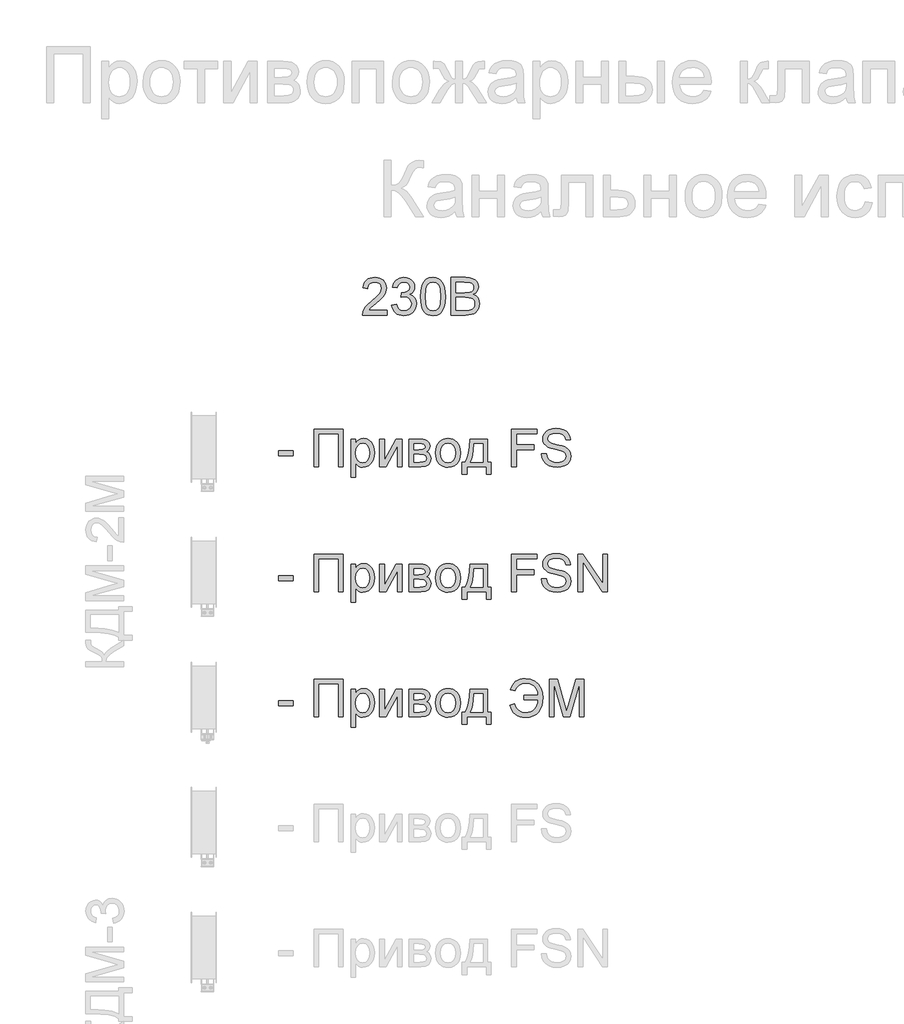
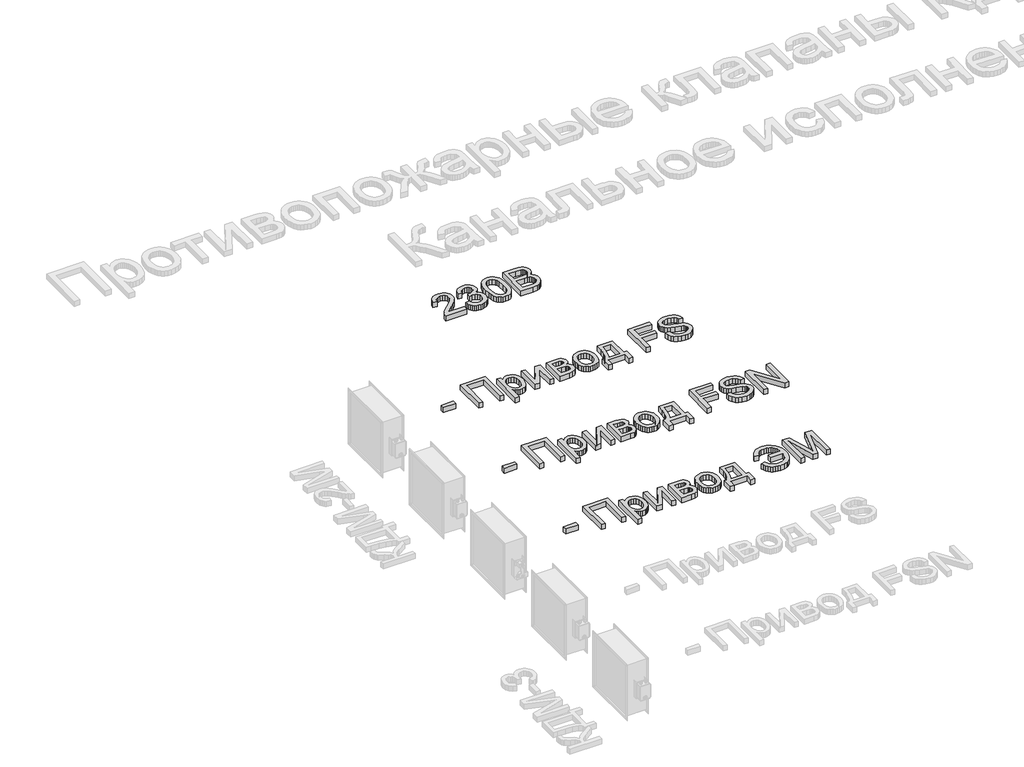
# One storey, part 11 of 23: 4 proxies.
"""IFC4 building model written with IfcOpenShell, lengths in millimetres."""

from ifc_helpers import new_model, si_unit, origin, origin_with_axes, place, context, project, spatial, polyline, outline, extrude, element, save

model = new_model("IFC4")

# Units and contexts
model_context = context("Model", 3, world=origin())
ifc_project = project(units=[si_unit("LENGTHUNIT", "METRE", prefix="MILLI")], contexts=[model_context])

# Site, building, storey
site = spatial("IfcSite", under=ifc_project)
building = spatial("IfcBuilding", under=site)
storey = spatial("IfcBuildingStorey", under=building, Name="Этаж 01", Elevation=0.0)

# Proxies
placement = place(None, origin())
element("IfcBuildingElementProxy", 1, Name="300 мм Arial", ObjectType="300 мм Arial", at=placement, inside=storey, context=model_context, shape_type="SweptSolid", body=[
    extrude(outline(polyline([(2804.7738082, -4434.3206311), (2804.7738082, -4396.6495148), (2922.4960467, -4396.6495148), (2922.4960467, -4434.3206311), (2804.7738082, -4434.3206311)])), origin_with_axes(), (0.0, 0.0, 1.0), 50.0),
    extrude(outline(polyline([(3087.3071805, -4222.4206019), (3322.7516574, -4222.4206019), (3322.7516574, -4523.7895324), (3285.0805411, -4523.7895324), (3285.0805411, -4260.0917182), (3124.9782968, -4260.0917182), (3124.9782968, -4523.7895324), (3087.3071805, -4523.7895324), (3087.3071805, -4222.4206019)])), origin_with_axes(), (0.0, 0.0, 1.0), 50.0),
    extrude(outline(polyline([(3383.9672214, -4608.5495441), (3383.9672214, -4302.4717241), (3421.6383378, -4302.4717241), (3421.6383378, -4339.4070764), (3433.9255964, -4321.1877206), (3447.684383, -4308.173895), (3463.724038, -4300.3655996), (3482.8539017, -4297.7628345), (3508.3297299, -4301.4048663), (3530.6049847, -4312.3309615), (3548.7415671, -4329.8789327), (3561.8013779, -4353.3865922), (3569.6924467, -4381.1432887), (3572.322803, -4411.438371), (3569.3521559, -4443.6556368), (3560.4402145, -4472.469994), (3545.8720875, -4496.4191119), (3525.9328834, -4514.0406595), (3502.7103324, -4524.8839813), (3478.292165, -4528.4984219), (3460.9741201, -4526.0795978), (3445.5138792, -4518.8231254), (3432.2793245, -4507.869439), (3421.6383378, -4494.3589728), (3421.6383378, -4608.5495441), (3383.9672214, -4608.5495441)]), holes=[polyline([(3421.6383378, -4414.8964618), (3425.7126308, -4448.668029), (3437.9355101, -4472.286053), (3455.970925, -4486.1919925), (3477.4828246, -4490.8273056), (3499.3442122, -4486.0264456), (3517.8394795, -4471.6238655), (3530.4486349, -4447.1413187), (3534.6516867, -4412.1005586), (3530.5498024, -4378.5129325), (3518.2441497, -4354.5638146), (3500.236326, -4340.2164168), (3479.027929, -4335.4339508), (3457.7367585, -4340.5199194), (3439.0391561, -4355.7778252), (3425.9885423, -4380.7294215), (3421.6383378, -4414.8964618)])]), origin_with_axes(), (0.0, 0.0, 1.0), 50.0),
    extrude(outline(polyline([(3614.7028088, -4302.4717241), (3652.3739251, -4302.4717241), (3652.3739251, -4471.2559835), (3744.9330351, -4302.4717241), (3793.6406113, -4302.4717241), (3793.6406113, -4523.7895324), (3755.969495, -4523.7895324), (3755.969495, -4356.0353426), (3663.9989962, -4523.7895324), (3614.7028088, -4523.7895324), (3614.7028088, -4302.4717241)])), origin_with_axes(), (0.0, 0.0, 1.0), 50.0),
    extrude(outline(polyline([(3850.1472857, -4302.4717241), (3933.1414638, -4302.4717241), (3959.8221055, -4303.7317199), (3978.6484666, -4307.5117074), (3992.4992238, -4314.6486181), (4004.2530535, -4325.9793836), (4012.2820781, -4340.7406486), (4014.9584196, -4358.1690581), (4013.3397388, -4372.2129533), (4008.4836965, -4384.325468), (4000.3718985, -4394.5617845), (3988.9859507, -4402.9770852), (4002.9286783, -4410.8037746), (4014.296232, -4423.3945359), (4021.856207, -4439.7560876), (4024.3761986, -4458.8951484), (4017.993446, -4487.6083381), (4002.8183137, -4507.8234538), (3978.7956194, -4519.7980127), (3945.8701809, -4523.7895324), (3850.1472857, -4523.7895324), (3850.1472857, -4302.4717241)]), holes=[polyline([(3887.818402, -4486.1184161), (3934.0243806, -4486.1184161), (3959.2059032, -4484.4169618), (3975.0064349, -4479.3125992), (3983.4861149, -4470.0327758), (3986.7050823, -4455.8049397), (3985.0955986, -4446.3779635), (3980.2671474, -4437.6683573), (3972.8543252, -4430.8533433), (3963.4917284, -4427.110144), (3930.3455607, -4424.9028521), (3887.818402, -4424.9028521), (3887.818402, -4486.1184161)]), polyline([(3887.818402, -4387.2317358), (3925.04806, -4387.2317358), (3955.7662065, -4385.3187494), (3970.7022156, -4377.6668039), (3975.6410313, -4371.3392336), (3977.2873033, -4363.8344409), (3974.3994296, -4352.5956459), (3965.7358086, -4345.3667647), (3950.0824297, -4341.4488215), (3926.2252823, -4340.1428404), (3887.818402, -4340.1428404), (3887.818402, -4387.2317358)])]), origin_with_axes(), (0.0, 0.0, 1.0), 50.0),
    extrude(outline(polyline([(4062.047315, -4413.1306282), (4064.0844615, -4384.4680223), (4070.1959011, -4359.7693448), (4080.3816339, -4339.0345959), (4094.6416597, -4322.2637754), (4108.9982546, -4311.5446138), (4124.8447715, -4303.8880698), (4142.1812106, -4299.2941433), (4161.0075717, -4297.7628345), (4181.7906051, -4299.6275364), (4200.5824773, -4305.221642), (4217.3831882, -4314.5451513), (4232.1927377, -4327.5980643), (4244.2799605, -4343.9389227), (4252.9136911, -4363.126268), (4258.0939294, -4385.1601003), (4259.8206756, -4410.0404195), (4256.767255, -4448.0978119), (4247.6069933, -4477.068519), (4232.606605, -4498.7643596), (4212.0328044, -4514.9971527), (4187.5962429, -4525.1231046), (4161.0075717, -4528.4984219), (4139.9210355, -4526.6406178), (4120.9544194, -4521.0672056), (4104.1077233, -4511.7781852), (4089.3809472, -4498.7735567), (4077.4224831, -4482.2740492), (4068.880723, -4462.500392), (4063.755667, -4439.452585), (4062.047315, -4413.1306282)]), holes=[polyline([(4099.7184313, -4413.0570518), (4104.0778329, -4447.1505157), (4117.1560378, -4471.4399245), (4136.8377246, -4485.9804603), (4161.0075717, -4490.8273056), (4185.0670541, -4485.9528692), (4204.7119527, -4471.3295599), (4217.7901576, -4446.7182544), (4222.1495593, -4411.8798294), (4217.7625665, -4378.7796469), (4204.6015881, -4354.821332), (4184.9290984, -4340.2807961), (4161.0075717, -4335.4339508), (4136.8377246, -4340.262402), (4117.1560378, -4354.7477556), (4104.0778329, -4378.981982), (4099.7184313, -4413.0570518)])]), origin_with_axes(), (0.0, 0.0, 1.0), 50.0),
    extrude(outline(polyline([(4335.1629082, -4302.4717241), (4476.4295943, -4302.4717241), (4476.4295943, -4486.1184161), (4504.6829316, -4486.1184161), (4504.6829316, -4585.0050964), (4467.0118152, -4585.0050964), (4467.0118152, -4523.7895324), (4311.6184605, -4523.7895324), (4311.6184605, -4585.0050964), (4273.9473442, -4585.0050964), (4273.9473442, -4486.1184161), (4297.4917919, -4486.1184161), (4314.6075017, -4455.1887373), (4326.5912577, -4414.2710624), (4333.4430598, -4363.3653913), (4335.1629082, -4302.4717241)]), holes=[polyline([(4368.1251349, -4340.1428404), (4365.0349262, -4386.2660455), (4359.2959671, -4425.9697099), (4350.9082576, -4459.2538334), (4339.8717977, -4486.1184161), (4438.758478, -4486.1184161), (4438.758478, -4340.1428404), (4368.1251349, -4340.1428404)])]), origin_with_axes(), (0.0, 0.0, 1.0), 50.0),
    extrude(outline(polyline([(4669.4940654, -4523.7895324), (4669.4940654, -4222.4206019), (4871.9763155, -4222.4206019), (4871.9763155, -4260.0917182), (4707.1651817, -4260.0917182), (4707.1651817, -4349.5606195), (4848.4318678, -4349.5606195), (4848.4318678, -4387.2317358), (4707.1651817, -4387.2317358), (4707.1651817, -4523.7895324), (4669.4940654, -4523.7895324)])), origin_with_axes(), (0.0, 0.0, 1.0), 50.0),
    extrude(outline(polyline([(4909.6474318, -4420.1939625), (4947.3185481, -4420.1939625), (4951.6411616, -4441.0988569), (4959.458654, -4457.901867), (4971.6539421, -4471.2375894), (4989.1099428, -4481.7406203), (5010.4470985, -4488.5556343), (5034.2858518, -4490.8273056), (5055.2735196, -4489.1074573), (5073.6492253, -4483.9479123), (5088.539249, -4475.780932), (5099.0698712, -4465.0387777), (5105.3330621, -4452.7055339), (5107.4207924, -4439.7652847), (5105.857294, -4427.1561293), (5101.1667985, -4416.2576252), (5091.6386549, -4406.9594078), (5075.5622117, -4399.1511124), (5020.7110062, -4384.7669264), (4984.7045559, -4375.2479798), (4961.665946, -4366.1888856), (4942.9131613, -4353.5153509), (4929.6234242, -4338.1562776), (4921.7047642, -4320.4427595), (4919.0652109, -4300.7058905), (4922.3301636, -4278.6421678), (4932.1250217, -4258.0683673), (4948.1922679, -4240.6307607), (4970.2743846, -4227.97562), (4996.7802824, -4220.2776893), (5026.1188715, -4217.7117124), (5057.9038759, -4220.3972509), (5085.7157547, -4228.4538666), (5108.5612266, -4241.7160126), (5125.4470102, -4260.0181418), (5136.1339822, -4282.2198202), (5140.3830192, -4307.1806136), (5102.7119029, -4307.1806136), (5095.7957214, -4284.7030237), (5081.3747472, -4268.4794277), (5058.841975, -4258.6569784), (5027.5903995, -4255.3828287), (4995.60306, -4258.6201902), (4973.658899, -4268.3322749), (4960.9669702, -4282.6244904), (4956.7363272, -4299.6022445), (4959.7345655, -4314.078401), (4968.7292803, -4325.7218662), (4989.9928596, -4336.1329266), (5030.2391499, -4346.7647163), (5071.7730271, -4356.8630771), (5096.8993674, -4365.6738508), (5118.3744789, -4379.340667), (5133.3564731, -4396.2080564), (5142.1580498, -4416.0920783), (5145.0919088, -4438.8087915), (5141.7165914, -4462.0313424), (5131.5906395, -4483.8743359), (5115.1279202, -4502.6731058), (5092.7423008, -4516.7629863), (5065.8225358, -4525.564563), (5035.7573798, -4528.4984219), (4998.8496186, -4525.3346367), (4968.4717629, -4515.8432813), (4944.2743246, -4499.9875673), (4925.907816, -4477.7307066), (4914.1171981, -4450.6178035), (4909.6474318, -4420.1939625)])), origin_with_axes(), (0.0, 0.0, 1.0), 50.0),
])
element("IfcBuildingElementProxy", 2, Name="300 мм Arial", ObjectType="300 мм Arial", at=placement, inside=storey, context=model_context, shape_type="SweptSolid", body=[
    extrude(outline(polyline([(2804.7738082, -5434.3206311), (2804.7738082, -5396.6495148), (2922.4960467, -5396.6495148), (2922.4960467, -5434.3206311), (2804.7738082, -5434.3206311)])), origin_with_axes(), (0.0, 0.0, 1.0), 50.0),
    extrude(outline(polyline([(3087.3071805, -5222.4206019), (3322.7516574, -5222.4206019), (3322.7516574, -5523.7895324), (3285.0805411, -5523.7895324), (3285.0805411, -5260.0917182), (3124.9782968, -5260.0917182), (3124.9782968, -5523.7895324), (3087.3071805, -5523.7895324), (3087.3071805, -5222.4206019)])), origin_with_axes(), (0.0, 0.0, 1.0), 50.0),
    extrude(outline(polyline([(3383.9672214, -5608.5495441), (3383.9672214, -5302.4717241), (3421.6383378, -5302.4717241), (3421.6383378, -5339.4070764), (3433.9255964, -5321.1877206), (3447.684383, -5308.173895), (3463.724038, -5300.3655996), (3482.8539017, -5297.7628345), (3508.3297299, -5301.4048663), (3530.6049847, -5312.3309615), (3548.7415671, -5329.8789327), (3561.8013779, -5353.3865922), (3569.6924467, -5381.1432887), (3572.322803, -5411.438371), (3569.3521559, -5443.6556368), (3560.4402145, -5472.469994), (3545.8720875, -5496.4191119), (3525.9328834, -5514.0406595), (3502.7103324, -5524.8839813), (3478.292165, -5528.4984219), (3460.9741201, -5526.0795978), (3445.5138792, -5518.8231254), (3432.2793245, -5507.869439), (3421.6383378, -5494.3589728), (3421.6383378, -5608.5495441), (3383.9672214, -5608.5495441)]), holes=[polyline([(3421.6383378, -5414.8964618), (3425.7126308, -5448.668029), (3437.9355101, -5472.286053), (3455.970925, -5486.1919925), (3477.4828246, -5490.8273056), (3499.3442122, -5486.0264456), (3517.8394795, -5471.6238655), (3530.4486349, -5447.1413187), (3534.6516867, -5412.1005586), (3530.5498024, -5378.5129325), (3518.2441497, -5354.5638146), (3500.236326, -5340.2164168), (3479.027929, -5335.4339508), (3457.7367585, -5340.5199194), (3439.0391561, -5355.7778252), (3425.9885423, -5380.7294215), (3421.6383378, -5414.8964618)])]), origin_with_axes(), (0.0, 0.0, 1.0), 50.0),
    extrude(outline(polyline([(3614.7028088, -5302.4717241), (3652.3739251, -5302.4717241), (3652.3739251, -5471.2559835), (3744.9330351, -5302.4717241), (3793.6406113, -5302.4717241), (3793.6406113, -5523.7895324), (3755.969495, -5523.7895324), (3755.969495, -5356.0353426), (3663.9989962, -5523.7895324), (3614.7028088, -5523.7895324), (3614.7028088, -5302.4717241)])), origin_with_axes(), (0.0, 0.0, 1.0), 50.0),
    extrude(outline(polyline([(3850.1472857, -5302.4717241), (3933.1414638, -5302.4717241), (3959.8221055, -5303.7317199), (3978.6484666, -5307.5117074), (3992.4992238, -5314.6486181), (4004.2530535, -5325.9793836), (4012.2820781, -5340.7406486), (4014.9584196, -5358.1690581), (4013.3397388, -5372.2129533), (4008.4836965, -5384.325468), (4000.3718985, -5394.5617845), (3988.9859507, -5402.9770852), (4002.9286783, -5410.8037746), (4014.296232, -5423.3945359), (4021.856207, -5439.7560876), (4024.3761986, -5458.8951484), (4017.993446, -5487.6083381), (4002.8183137, -5507.8234538), (3978.7956194, -5519.7980127), (3945.8701809, -5523.7895324), (3850.1472857, -5523.7895324), (3850.1472857, -5302.4717241)]), holes=[polyline([(3887.818402, -5486.1184161), (3934.0243806, -5486.1184161), (3959.2059032, -5484.4169618), (3975.0064349, -5479.3125992), (3983.4861149, -5470.0327758), (3986.7050823, -5455.8049397), (3985.0955986, -5446.3779635), (3980.2671474, -5437.6683573), (3972.8543252, -5430.8533433), (3963.4917284, -5427.110144), (3930.3455607, -5424.9028521), (3887.818402, -5424.9028521), (3887.818402, -5486.1184161)]), polyline([(3887.818402, -5387.2317358), (3925.04806, -5387.2317358), (3955.7662065, -5385.3187494), (3970.7022156, -5377.6668039), (3975.6410313, -5371.3392336), (3977.2873033, -5363.8344409), (3974.3994296, -5352.5956459), (3965.7358086, -5345.3667647), (3950.0824297, -5341.4488215), (3926.2252823, -5340.1428404), (3887.818402, -5340.1428404), (3887.818402, -5387.2317358)])]), origin_with_axes(), (0.0, 0.0, 1.0), 50.0),
    extrude(outline(polyline([(4062.047315, -5413.1306282), (4064.0844615, -5384.4680223), (4070.1959011, -5359.7693448), (4080.3816339, -5339.0345959), (4094.6416597, -5322.2637754), (4108.9982546, -5311.5446138), (4124.8447715, -5303.8880698), (4142.1812106, -5299.2941433), (4161.0075717, -5297.7628345), (4181.7906051, -5299.6275364), (4200.5824773, -5305.221642), (4217.3831882, -5314.5451513), (4232.1927377, -5327.5980643), (4244.2799605, -5343.9389227), (4252.9136911, -5363.126268), (4258.0939294, -5385.1601003), (4259.8206756, -5410.0404195), (4256.767255, -5448.0978119), (4247.6069933, -5477.068519), (4232.606605, -5498.7643596), (4212.0328044, -5514.9971527), (4187.5962429, -5525.1231046), (4161.0075717, -5528.4984219), (4139.9210355, -5526.6406178), (4120.9544194, -5521.0672056), (4104.1077233, -5511.7781852), (4089.3809472, -5498.7735567), (4077.4224831, -5482.2740492), (4068.880723, -5462.500392), (4063.755667, -5439.452585), (4062.047315, -5413.1306282)]), holes=[polyline([(4099.7184313, -5413.0570518), (4104.0778329, -5447.1505157), (4117.1560378, -5471.4399245), (4136.8377246, -5485.9804603), (4161.0075717, -5490.8273056), (4185.0670541, -5485.9528692), (4204.7119527, -5471.3295599), (4217.7901576, -5446.7182544), (4222.1495593, -5411.8798294), (4217.7625665, -5378.7796469), (4204.6015881, -5354.821332), (4184.9290984, -5340.2807961), (4161.0075717, -5335.4339508), (4136.8377246, -5340.262402), (4117.1560378, -5354.7477556), (4104.0778329, -5378.981982), (4099.7184313, -5413.0570518)])]), origin_with_axes(), (0.0, 0.0, 1.0), 50.0),
    extrude(outline(polyline([(4335.1629082, -5302.4717241), (4476.4295943, -5302.4717241), (4476.4295943, -5486.1184161), (4504.6829316, -5486.1184161), (4504.6829316, -5585.0050964), (4467.0118152, -5585.0050964), (4467.0118152, -5523.7895324), (4311.6184605, -5523.7895324), (4311.6184605, -5585.0050964), (4273.9473442, -5585.0050964), (4273.9473442, -5486.1184161), (4297.4917919, -5486.1184161), (4314.6075017, -5455.1887373), (4326.5912577, -5414.2710624), (4333.4430598, -5363.3653913), (4335.1629082, -5302.4717241)]), holes=[polyline([(4368.1251349, -5340.1428404), (4365.0349262, -5386.2660455), (4359.2959671, -5425.9697099), (4350.9082576, -5459.2538334), (4339.8717977, -5486.1184161), (4438.758478, -5486.1184161), (4438.758478, -5340.1428404), (4368.1251349, -5340.1428404)])]), origin_with_axes(), (0.0, 0.0, 1.0), 50.0),
    extrude(outline(polyline([(4669.4940654, -5523.7895324), (4669.4940654, -5222.4206019), (4871.9763155, -5222.4206019), (4871.9763155, -5260.0917182), (4707.1651817, -5260.0917182), (4707.1651817, -5349.5606195), (4848.4318678, -5349.5606195), (4848.4318678, -5387.2317358), (4707.1651817, -5387.2317358), (4707.1651817, -5523.7895324), (4669.4940654, -5523.7895324)])), origin_with_axes(), (0.0, 0.0, 1.0), 50.0),
    extrude(outline(polyline([(4909.6474318, -5420.1939625), (4947.3185481, -5420.1939625), (4951.6411616, -5441.0988569), (4959.458654, -5457.901867), (4971.6539421, -5471.2375894), (4989.1099428, -5481.7406203), (5010.4470985, -5488.5556343), (5034.2858518, -5490.8273056), (5055.2735196, -5489.1074573), (5073.6492253, -5483.9479123), (5088.539249, -5475.780932), (5099.0698712, -5465.0387777), (5105.3330621, -5452.7055339), (5107.4207924, -5439.7652847), (5105.857294, -5427.1561293), (5101.1667985, -5416.2576252), (5091.6386549, -5406.9594078), (5075.5622117, -5399.1511124), (5020.7110062, -5384.7669264), (4984.7045559, -5375.2479798), (4961.665946, -5366.1888856), (4942.9131613, -5353.5153509), (4929.6234242, -5338.1562776), (4921.7047642, -5320.4427595), (4919.0652109, -5300.7058905), (4922.3301636, -5278.6421678), (4932.1250217, -5258.0683673), (4948.1922679, -5240.6307607), (4970.2743846, -5227.97562), (4996.7802824, -5220.2776893), (5026.1188715, -5217.7117124), (5057.9038759, -5220.3972509), (5085.7157547, -5228.4538666), (5108.5612266, -5241.7160126), (5125.4470102, -5260.0181418), (5136.1339822, -5282.2198202), (5140.3830192, -5307.1806136), (5102.7119029, -5307.1806136), (5095.7957214, -5284.7030237), (5081.3747472, -5268.4794277), (5058.841975, -5258.6569784), (5027.5903995, -5255.3828287), (4995.60306, -5258.6201902), (4973.658899, -5268.3322749), (4960.9669702, -5282.6244904), (4956.7363272, -5299.6022445), (4959.7345655, -5314.078401), (4968.7292803, -5325.7218662), (4989.9928596, -5336.1329266), (5030.2391499, -5346.7647163), (5071.7730271, -5356.8630771), (5096.8993674, -5365.6738508), (5118.3744789, -5379.340667), (5133.3564731, -5396.2080564), (5142.1580498, -5416.0920783), (5145.0919088, -5438.8087915), (5141.7165914, -5462.0313424), (5131.5906395, -5483.8743359), (5115.1279202, -5502.6731058), (5092.7423008, -5516.7629863), (5065.8225358, -5525.564563), (5035.7573798, -5528.4984219), (4998.8496186, -5525.3346367), (4968.4717629, -5515.8432813), (4944.2743246, -5499.9875673), (4925.907816, -5477.7307066), (4914.1171981, -5450.6178035), (4909.6474318, -5420.1939625)])), origin_with_axes(), (0.0, 0.0, 1.0), 50.0),
    extrude(outline(polyline([(5201.5985832, -5523.7895324), (5201.5985832, -5222.4206019), (5241.9184499, -5222.4206019), (5399.3719438, -5461.1760168), (5399.3719438, -5222.4206019), (5437.0430601, -5222.4206019), (5437.0430601, -5523.7895324), (5396.7231935, -5523.7895324), (5239.2696995, -5284.9605411), (5239.2696995, -5523.7895324), (5201.5985832, -5523.7895324)])), origin_with_axes(), (0.0, 0.0, 1.0), 50.0),
])
element("IfcBuildingElementProxy", 3, Name="300 мм Arial", ObjectType="300 мм Arial", at=placement, inside=storey, context=model_context, shape_type="SweptSolid", body=[
    extrude(outline(polyline([(2804.7738082, -6434.3206311), (2804.7738082, -6396.6495148), (2922.4960467, -6396.6495148), (2922.4960467, -6434.3206311), (2804.7738082, -6434.3206311)])), origin_with_axes(), (0.0, 0.0, 1.0), 50.0),
    extrude(outline(polyline([(3087.3071805, -6222.4206019), (3322.7516574, -6222.4206019), (3322.7516574, -6523.7895324), (3285.0805411, -6523.7895324), (3285.0805411, -6260.0917182), (3124.9782968, -6260.0917182), (3124.9782968, -6523.7895324), (3087.3071805, -6523.7895324), (3087.3071805, -6222.4206019)])), origin_with_axes(), (0.0, 0.0, 1.0), 50.0),
    extrude(outline(polyline([(3383.9672214, -6608.5495441), (3383.9672214, -6302.4717241), (3421.6383378, -6302.4717241), (3421.6383378, -6339.4070764), (3433.9255964, -6321.1877206), (3447.684383, -6308.173895), (3463.724038, -6300.3655996), (3482.8539017, -6297.7628345), (3508.3297299, -6301.4048663), (3530.6049847, -6312.3309615), (3548.7415671, -6329.8789327), (3561.8013779, -6353.3865922), (3569.6924467, -6381.1432887), (3572.322803, -6411.438371), (3569.3521559, -6443.6556368), (3560.4402145, -6472.469994), (3545.8720875, -6496.4191119), (3525.9328834, -6514.0406595), (3502.7103324, -6524.8839813), (3478.292165, -6528.4984219), (3460.9741201, -6526.0795978), (3445.5138792, -6518.8231254), (3432.2793245, -6507.869439), (3421.6383378, -6494.3589728), (3421.6383378, -6608.5495441), (3383.9672214, -6608.5495441)]), holes=[polyline([(3421.6383378, -6414.8964618), (3425.7126308, -6448.668029), (3437.9355101, -6472.286053), (3455.970925, -6486.1919925), (3477.4828246, -6490.8273056), (3499.3442122, -6486.0264456), (3517.8394795, -6471.6238655), (3530.4486349, -6447.1413187), (3534.6516867, -6412.1005586), (3530.5498024, -6378.5129325), (3518.2441497, -6354.5638146), (3500.236326, -6340.2164168), (3479.027929, -6335.4339508), (3457.7367585, -6340.5199194), (3439.0391561, -6355.7778252), (3425.9885423, -6380.7294215), (3421.6383378, -6414.8964618)])]), origin_with_axes(), (0.0, 0.0, 1.0), 50.0),
    extrude(outline(polyline([(3614.7028088, -6302.4717241), (3652.3739251, -6302.4717241), (3652.3739251, -6471.2559835), (3744.9330351, -6302.4717241), (3793.6406113, -6302.4717241), (3793.6406113, -6523.7895324), (3755.969495, -6523.7895324), (3755.969495, -6356.0353426), (3663.9989962, -6523.7895324), (3614.7028088, -6523.7895324), (3614.7028088, -6302.4717241)])), origin_with_axes(), (0.0, 0.0, 1.0), 50.0),
    extrude(outline(polyline([(3850.1472857, -6302.4717241), (3933.1414638, -6302.4717241), (3959.8221055, -6303.7317199), (3978.6484666, -6307.5117074), (3992.4992238, -6314.6486181), (4004.2530535, -6325.9793836), (4012.2820781, -6340.7406486), (4014.9584196, -6358.1690581), (4013.3397388, -6372.2129533), (4008.4836965, -6384.325468), (4000.3718985, -6394.5617845), (3988.9859507, -6402.9770852), (4002.9286783, -6410.8037746), (4014.296232, -6423.3945359), (4021.856207, -6439.7560876), (4024.3761986, -6458.8951484), (4017.993446, -6487.6083381), (4002.8183137, -6507.8234538), (3978.7956194, -6519.7980127), (3945.8701809, -6523.7895324), (3850.1472857, -6523.7895324), (3850.1472857, -6302.4717241)]), holes=[polyline([(3887.818402, -6486.1184161), (3934.0243806, -6486.1184161), (3959.2059032, -6484.4169618), (3975.0064349, -6479.3125992), (3983.4861149, -6470.0327758), (3986.7050823, -6455.8049397), (3985.0955986, -6446.3779635), (3980.2671474, -6437.6683573), (3972.8543252, -6430.8533433), (3963.4917284, -6427.110144), (3930.3455607, -6424.9028521), (3887.818402, -6424.9028521), (3887.818402, -6486.1184161)]), polyline([(3887.818402, -6387.2317358), (3925.04806, -6387.2317358), (3955.7662065, -6385.3187494), (3970.7022156, -6377.6668039), (3975.6410313, -6371.3392336), (3977.2873033, -6363.8344409), (3974.3994296, -6352.5956459), (3965.7358086, -6345.3667647), (3950.0824297, -6341.4488215), (3926.2252823, -6340.1428404), (3887.818402, -6340.1428404), (3887.818402, -6387.2317358)])]), origin_with_axes(), (0.0, 0.0, 1.0), 50.0),
    extrude(outline(polyline([(4062.047315, -6413.1306282), (4064.0844615, -6384.4680223), (4070.1959011, -6359.7693448), (4080.3816339, -6339.0345959), (4094.6416597, -6322.2637754), (4108.9982546, -6311.5446138), (4124.8447715, -6303.8880698), (4142.1812106, -6299.2941433), (4161.0075717, -6297.7628345), (4181.7906051, -6299.6275364), (4200.5824773, -6305.221642), (4217.3831882, -6314.5451513), (4232.1927377, -6327.5980643), (4244.2799605, -6343.9389227), (4252.9136911, -6363.126268), (4258.0939294, -6385.1601003), (4259.8206756, -6410.0404195), (4256.767255, -6448.0978119), (4247.6069933, -6477.068519), (4232.606605, -6498.7643596), (4212.0328044, -6514.9971527), (4187.5962429, -6525.1231046), (4161.0075717, -6528.4984219), (4139.9210355, -6526.6406178), (4120.9544194, -6521.0672056), (4104.1077233, -6511.7781852), (4089.3809472, -6498.7735567), (4077.4224831, -6482.2740492), (4068.880723, -6462.500392), (4063.755667, -6439.452585), (4062.047315, -6413.1306282)]), holes=[polyline([(4099.7184313, -6413.0570518), (4104.0778329, -6447.1505157), (4117.1560378, -6471.4399245), (4136.8377246, -6485.9804603), (4161.0075717, -6490.8273056), (4185.0670541, -6485.9528692), (4204.7119527, -6471.3295599), (4217.7901576, -6446.7182544), (4222.1495593, -6411.8798294), (4217.7625665, -6378.7796469), (4204.6015881, -6354.821332), (4184.9290984, -6340.2807961), (4161.0075717, -6335.4339508), (4136.8377246, -6340.262402), (4117.1560378, -6354.7477556), (4104.0778329, -6378.981982), (4099.7184313, -6413.0570518)])]), origin_with_axes(), (0.0, 0.0, 1.0), 50.0),
    extrude(outline(polyline([(4335.1629082, -6302.4717241), (4476.4295943, -6302.4717241), (4476.4295943, -6486.1184161), (4504.6829316, -6486.1184161), (4504.6829316, -6585.0050964), (4467.0118152, -6585.0050964), (4467.0118152, -6523.7895324), (4311.6184605, -6523.7895324), (4311.6184605, -6585.0050964), (4273.9473442, -6585.0050964), (4273.9473442, -6486.1184161), (4297.4917919, -6486.1184161), (4314.6075017, -6455.1887373), (4326.5912577, -6414.2710624), (4333.4430598, -6363.3653913), (4335.1629082, -6302.4717241)]), holes=[polyline([(4368.1251349, -6340.1428404), (4365.0349262, -6386.2660455), (4359.2959671, -6425.9697099), (4350.9082576, -6459.2538334), (4339.8717977, -6486.1184161), (4438.758478, -6486.1184161), (4438.758478, -6340.1428404), (4368.1251349, -6340.1428404)])]), origin_with_axes(), (0.0, 0.0, 1.0), 50.0),
    extrude(outline(polyline([(4768.3807457, -6349.5606195), (4881.3940946, -6349.5606195), (4878.6947605, -6329.0121108), (4873.0983556, -6310.7030837), (4864.6048801, -6294.6335383), (4853.2143338, -6280.8034746), (4839.1520445, -6269.681942), (4822.64334, -6261.7379902), (4803.6882202, -6256.9716191), (4782.2866851, -6255.3828287), (4751.8674426, -6259.2088014), (4727.6378147, -6270.6867197), (4709.5978014, -6289.8165834), (4697.7474026, -6316.5983927), (4660.0762863, -6307.1806136), (4666.8637091, -6287.2873947), (4676.1895177, -6269.6934383), (4688.053712, -6254.3987444), (4702.4562922, -6241.4033129), (4719.0799598, -6231.0382377), (4737.6074168, -6223.6346125), (4758.0386631, -6219.1924374), (4780.3736987, -6217.7117124), (4821.4477235, -6223.1471689), (4856.3781189, -6239.4535383), (4884.1256184, -6264.2119966), (4903.6509553, -6295.0037196), (4915.211647, -6330.6054997), (4919.0652109, -6369.7941292), (4917.8925871, -6402.0136942), (4912.0938471, -6431.5707132), (4901.6689911, -6458.4651863), (4886.6180189, -6482.6971135), (4866.9777189, -6502.7351859), (4842.7848792, -6517.0480948), (4814.0394998, -6525.6358401), (4780.7415807, -6528.4984219), (4757.0545788, -6526.9533175), (4735.6576422, -6522.3180044), (4716.5507711, -6514.5924825), (4699.7339654, -6503.7767518), (4685.2072251, -6489.8708124), (4672.9705502, -6472.8746642), (4663.0239408, -6452.7883073), (4655.3673968, -6429.6117416), (4693.0385131, -6420.1939625), (4705.7672301, -6451.0960501), (4725.3385523, -6473.1689698), (4751.7524795, -6486.4127217), (4785.0090119, -6490.8273056), (4804.7182898, -6489.0936617), (4822.5697636, -6483.89273), (4838.5634333, -6475.2245105), (4852.699299, -6463.0890032), (4864.3979464, -6447.9460605), (4873.0799615, -6430.2555351), (4878.7453442, -6410.0174268), (4881.3940946, -6387.2317358), (4768.3807457, -6387.2317358), (4768.3807457, -6349.5606195)])), origin_with_axes(), (0.0, 0.0, 1.0), 50.0),
    extrude(outline(polyline([(4970.8629958, -6523.7895324), (4970.8629958, -6222.4206019), (5035.6838034, -6222.4206019), (5097.3408258, -6434.8356659), (5109.7752372, -6479.2022346), (5123.2397182, -6431.156846), (5183.866671, -6222.4206019), (5248.6874786, -6222.4206019), (5248.6874786, -6523.7895324), (5211.0163623, -6523.7895324), (5211.0163623, -6260.0917182), (5135.3062477, -6523.7895324), (5084.2442268, -6523.7895324), (5008.5341121, -6260.0917182), (5008.5341121, -6523.7895324), (4970.8629958, -6523.7895324)])), origin_with_axes(), (0.0, 0.0, 1.0), 50.0),
])
element("IfcBuildingElementProxy", 4, Name="300 мм Arial", ObjectType="300 мм Arial", at=placement, inside=storey, context=model_context, shape_type="SweptSolid", body=[
    extrude(outline(polyline([(3672.9728635, -3273.066365), (3672.9728635, -3310.7374813), (3475.1995029, -3310.7374813), (3479.2462048, -3284.7650124), (3488.5352252, -3264.4671233), (3502.1284649, -3244.7762395), (3521.7917576, -3224.1656508), (3549.2909367, -3201.1086467), (3589.9418972, -3165.0010289), (3614.3324735, -3138.3479783), (3626.5277616, -3116.716517), (3630.5928576, -3095.6736669), (3626.7576878, -3076.8105176), (3615.2521784, -3061.1295476), (3597.5662515, -3050.5621372), (3575.1898292, -3047.0396671), (3551.6913667, -3050.4793638), (3533.4352227, -3060.7984538), (3521.6538018, -3077.1875966), (3517.5795087, -3098.8374521), (3479.9083924, -3094.1285625), (3489.041063, -3057.6898509), (3497.5874216, -3043.1539136), (3508.787129, -3031.0735886), (3522.382668, -3021.5776346), (3538.1165211, -3014.7948103), (3575.9991696, -3009.3685508), (3596.1889933, -3010.876867), (3614.1577295, -3015.4018156), (3629.9053782, -3022.9433965), (3643.4319393, -3033.5016097), (3654.2959544, -3046.2947061), (3662.0559653, -3060.5409364), (3666.7119718, -3076.2403005), (3668.263974, -3093.3927985), (3666.5901109, -3111.4098192), (3661.5685216, -3129.1141403), (3652.6565803, -3147.1219639), (3639.3116609, -3166.0494926), (3618.0388846, -3188.6466441), (3585.3433722, -3217.6633365), (3542.0068732, -3253.899713), (3525.010725, -3273.066365), (3672.9728635, -3273.066365)])), origin_with_axes(), (0.0, 0.0, 1.0), 50.0),
    extrude(outline(polyline([(3710.6439798, -3230.6863591), (3748.3150961, -3225.9774696), (3756.7487908, -3249.650676), (3769.1004288, -3265.6351487), (3785.9770154, -3274.7402281), (3807.9855557, -3277.7752545), (3833.8108718, -3273.5997939), (3853.7500759, -3261.0734119), (3866.4971871, -3242.3850066), (3870.7462241, -3219.7234757), (3866.5339753, -3198.211576), (3853.8972287, -3180.7647724), (3834.767365, -3169.2040807), (3811.0757645, -3165.3505168), (3784.6618372, -3169.4707951), (3788.855692, -3131.7996788), (3794.8889567, -3132.2411372), (3817.4585171, -3129.5372046), (3837.6368445, -3121.4254066), (3851.8738777, -3107.7034081), (3856.6195555, -3088.1688742), (3853.1798588, -3071.899293), (3842.8607689, -3058.7015264), (3827.1154195, -3049.955132), (3807.3969445, -3047.0396671), (3787.6416814, -3049.9827231), (3771.4916618, -3058.811891), (3759.7010439, -3073.5271708), (3753.0239856, -3094.1285625), (3715.3528693, -3089.419673), (3726.4445115, -3055.5929235), (3746.1813805, -3030.3378246), (3773.183919, -3014.6108693), (3806.0725693, -3009.3685508), (3829.7549728, -3011.9529219), (3851.5059957, -3019.7060349), (3869.8449132, -3031.9381112), (3883.2910001, -3047.9593721), (3891.5407539, -3066.4178512), (3894.2906718, -3085.9615822), (3891.6787096, -3104.171741), (3883.8428231, -3120.6896426), (3870.8933769, -3134.7611289), (3852.9407355, -3145.6320418), (3876.5219714, -3155.1601855), (3893.9963662, -3171.3837815), (3904.8120968, -3193.419913), (3908.4173404, -3220.3856633), (3906.6147186, -3239.4971329), (3901.2068533, -3257.1002864), (3892.1937444, -3273.1951237), (3879.575392, -3287.7816448), (3864.2025231, -3299.8849624), (3846.9258649, -3308.5301893), (3827.7454174, -3313.7173254), (3806.6611805, -3315.4463708), (3787.6048932, -3313.9702443), (3770.240863, -3309.5418648), (3754.56909, -3302.1612323), (3740.5895742, -3291.8283467), (3728.8679341, -3279.1502135), (3719.9697884, -3264.7338378), (3713.8951369, -3248.5792197), (3710.6439798, -3230.6863591)])), origin_with_axes(), (0.0, 0.0, 1.0), 50.0),
    extrude(outline(polyline([(3941.3795672, -3162.4810372), (3944.1478792, -3114.2425106), (3952.4528152, -3075.771251), (3966.2116018, -3046.4786471), (3985.3414656, -3025.7760878), (4009.9803622, -3013.4704351), (4040.2662475, -3009.3685508), (4063.4796014, -3011.796572), (4084.2649341, -3019.0806355), (4101.6473584, -3030.9356328), (4114.6519869, -3047.0764553), (4124.4744362, -3067.3651474), (4132.3103227, -3091.6637532), (4137.4422765, -3122.5198555), (4139.1529278, -3162.4810372), (4136.4122069, -3210.4436523), (4128.1900443, -3248.8229415), (4114.5140312, -3278.1431365), (4095.4117586, -3298.9284692), (4070.7176796, -3311.3168954), (4040.2662475, -3315.4463708), (4019.5177029, -3313.6529461), (4001.1236032, -3308.2726719), (3985.0839482, -3299.3055483), (3971.398738, -3286.7515752), (3958.2653507, -3264.0578546), (3948.8843599, -3235.7815248), (3943.2557653, -3201.9225856), (3941.3795672, -3162.4810372)]), holes=[polyline([(3979.0506835, -3162.4074608), (3983.4652674, -3221.6640532), (3988.9834973, -3241.9320519), (3996.7090192, -3255.9598522), (4016.4274942, -3272.3214039), (4040.2662475, -3277.7752545), (4064.1050008, -3272.3030098), (4083.8234757, -3255.8862758), (4091.5489976, -3241.8354829), (4097.0672275, -3221.5720827), (4101.4818115, -3162.4074608), (4097.2143803, -3104.4844407), (4091.8800914, -3084.2831206), (4084.4120869, -3069.9219272), (4064.7304002, -3052.7602322), (4039.8247891, -3047.0396671), (4016.2435532, -3052.0796505), (3997.2976304, -3067.1996005), (3989.3145911, -3082.8345853), (3983.6124202, -3103.9142236), (3979.0506835, -3162.4074608)])]), origin_with_axes(), (0.0, 0.0, 1.0), 50.0),
    extrude(outline(polyline([(4186.2418232, -3310.7374813), (4186.2418232, -3009.3685508), (4301.2417349, -3009.3685508), (4332.8703894, -3011.5850399), (4357.5644683, -3018.2345069), (4376.491997, -3029.4824989), (4390.8210007, -3045.4945628), (4399.8433066, -3064.3301209), (4402.8507419, -3084.0485959), (4400.3215532, -3102.1943753), (4392.7339871, -3119.2549028), (4380.0328612, -3134.1817147), (4362.1629933, -3145.9263474), (4383.509346, -3157.0731719), (4399.2822866, -3174.0325319), (4409.0219624, -3195.6823873), (4412.268521, -3220.9006981), (4410.052032, -3241.915957), (4403.4025649, -3261.4045057), (4393.4789481, -3277.9775896), (4381.4400098, -3290.2464542), (4366.6971388, -3299.1308043), (4348.661724, -3305.5503452), (4300.3588181, -3310.7374813), (4186.2418232, -3310.7374813)]), holes=[polyline([(4223.9129395, -3131.7996788), (4292.7068726, -3131.7996788), (4332.8795864, -3128.5623173), (4346.9418757, -3122.979708), (4357.0494335, -3114.6195897), (4363.1470776, -3103.6107209), (4365.1796256, -3090.0818606), (4363.2850333, -3076.9484733), (4357.6012565, -3065.5073433), (4348.3858125, -3056.5770079), (4335.8962188, -3050.9760045), (4287.4829482, -3047.0396671), (4223.9129395, -3047.0396671), (4223.9129395, -3131.7996788)]), polyline([(4223.9129395, -3273.066365), (4301.1681585, -3273.066365), (4329.1271901, -3271.594837), (4352.7820024, -3263.3910685), (4368.4537754, -3246.6524377), (4373.0614974, -3234.8250316), (4374.5974047, -3221.2685801), (4372.7947829, -3205.5232307), (4367.3869176, -3191.9851732), (4357.9415474, -3181.3993688), (4344.0264109, -3174.5107785), (4324.317133, -3170.730791), (4297.4893385, -3169.4707951), (4223.9129395, -3169.4707951), (4223.9129395, -3273.066365)])]), origin_with_axes(), (0.0, 0.0, 1.0), 50.0),
])

save(model, "model.ifc")
